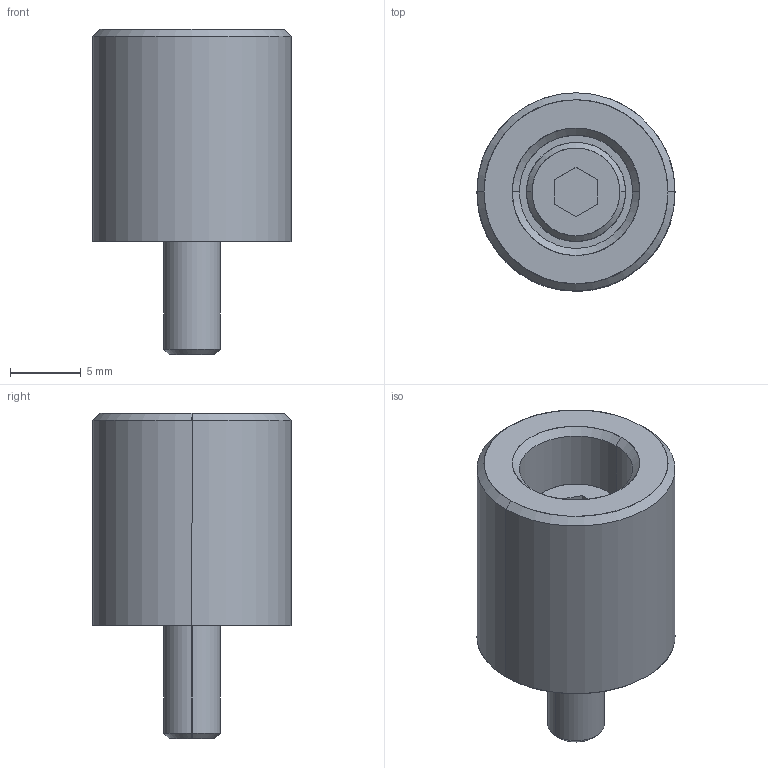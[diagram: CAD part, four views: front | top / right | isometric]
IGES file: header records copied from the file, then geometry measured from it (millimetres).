
Global section: file name: E:\UnigraphicsGraphicData\MISUMI_PRESS-PARTS\IGES\3d_sbv14-15-y-15_00587_r00.igs; native system: NX V5.0; preprocessor: UGS NX IGES V5.0; author: MISUMI; date: 20110105.162507; units: millimetre
Bounding box: 14 x 14 x 23 mm (x, y, z)
Surface area: 1585.8 mm2 (no closed solid volume)
Topology: 0 solids, 0 shells, 31 faces, 188 edges, 188 vertices
Faces by surface type: bspline 31
